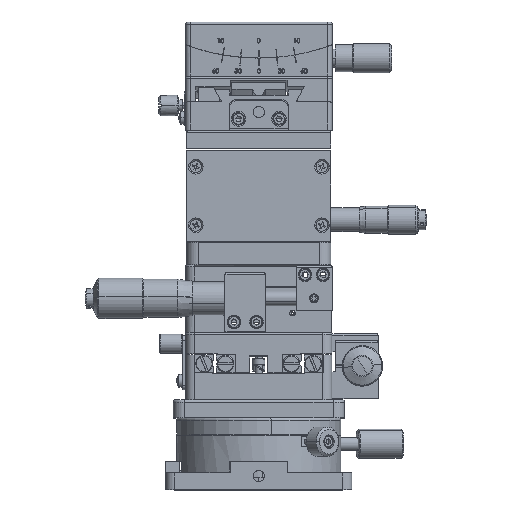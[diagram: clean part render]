
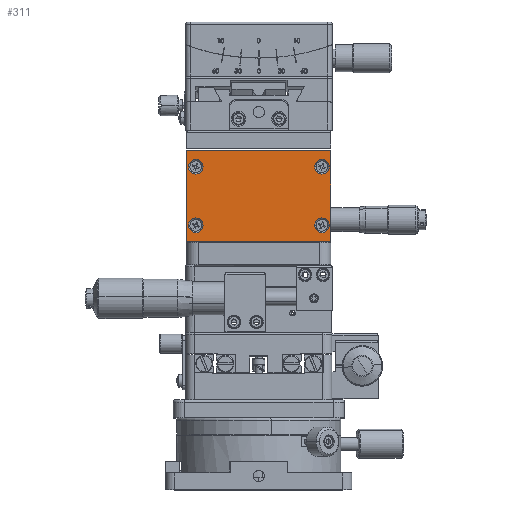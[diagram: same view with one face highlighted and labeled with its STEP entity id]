
A CAD part, top view. The second image highlights one B-rep face of the part: STEP entity #311.
In plain terms, the highlighted planar face has unit normal (0, 0, 1).
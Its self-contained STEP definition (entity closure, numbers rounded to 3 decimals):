
#294 = DIRECTION ( 'NONE',  ( 0., 0., 1. ) ) ;
#311 = ADVANCED_FACE ( 'NONE', ( #51239, #19846, #36436, #67918, #34496 ), #60188, .T. ) ;
#2856 = VECTOR ( 'NONE', #40385, 1000. ) ;
#4668 = VERTEX_POINT ( 'NONE', #16105 ) ;
#6529 = DIRECTION ( 'NONE',  ( 0., 0., -1. ) ) ;
#8771 = DIRECTION ( 'NONE',  ( 0., 0., -1. ) ) ;
#10089 = CARTESIAN_POINT ( 'NONE',  ( 28.04, 117.421, 24.96 ) ) ;
#10103 = CARTESIAN_POINT ( 'NONE',  ( -31.96, 150.421, 24.96 ) ) ;
#11015 = DIRECTION ( 'NONE',  ( 0., 0., 1. ) ) ;
#12549 = AXIS2_PLACEMENT_3D ( 'NONE', #18831, #62718, #25141 ) ;
#12737 = EDGE_LOOP ( 'NONE', ( #37847, #41661, #57982, #39986 ) ) ;
#13456 = ORIENTED_EDGE ( 'NONE', *, *, #14168, .F. ) ;
#14168 = EDGE_CURVE ( 'NONE', #25033, #79040, #41492, .T. ) ;
#14227 = VECTOR ( 'NONE', #32479, 1000. ) ;
#14324 = EDGE_CURVE ( 'NONE', #4668, #53652, #75839, .T. ) ;
#16105 = CARTESIAN_POINT ( 'NONE',  ( -24.71, 143.421, 24.96 ) ) ;
#16415 = DIRECTION ( 'NONE',  ( 1., 0., 0. ) ) ;
#16452 = EDGE_CURVE ( 'NONE', #48978, #19655, #24493, .T. ) ;
#18831 = CARTESIAN_POINT ( 'NONE',  ( 28.04, 143.421, 24.96 ) ) ;
#19655 = VERTEX_POINT ( 'NONE', #54207 ) ;
#19846 = FACE_BOUND ( 'NONE', #76403, .T. ) ;
#21518 = EDGE_CURVE ( 'NONE', #48903, #32127, #53277, .T. ) ;
#21926 = CARTESIAN_POINT ( 'NONE',  ( 32.04, 150.421, 24.96 ) ) ;
#22376 = ORIENTED_EDGE ( 'NONE', *, *, #67625, .F. ) ;
#22382 = CIRCLE ( 'NONE', #23998, 3.25 ) ;
#22524 = VECTOR ( 'NONE', #40404, 1000. ) ;
#23651 = AXIS2_PLACEMENT_3D ( 'NONE', #10089, #53960, #16415 ) ;
#23998 = AXIS2_PLACEMENT_3D ( 'NONE', #61795, #24243, #68076 ) ;
#24136 = ORIENTED_EDGE ( 'NONE', *, *, #72215, .F. ) ;
#24243 = DIRECTION ( 'NONE',  ( 0., 0., 1. ) ) ;
#24493 = LINE ( 'NONE', #65430, #22524 ) ;
#24731 = ORIENTED_EDGE ( 'NONE', *, *, #14324, .T. ) ;
#25033 = VERTEX_POINT ( 'NONE', #26767 ) ;
#25141 = DIRECTION ( 'NONE',  ( 1., 0., 0. ) ) ;
#25631 = EDGE_LOOP ( 'NONE', ( #22376, #13456 ) ) ;
#26341 = EDGE_CURVE ( 'NONE', #53652, #4668, #68196, .T. ) ;
#26447 = EDGE_CURVE ( 'NONE', #51115, #48978, #47586, .T. ) ;
#26767 = CARTESIAN_POINT ( 'NONE',  ( -24.71, 117.421, 24.96 ) ) ;
#27229 = VECTOR ( 'NONE', #72089, 1000. ) ;
#28211 = CARTESIAN_POINT ( 'NONE',  ( 32.04, 150.421, 24.96 ) ) ;
#28314 = AXIS2_PLACEMENT_3D ( 'NONE', #30184, #74073, #36427 ) ;
#30184 = CARTESIAN_POINT ( 'NONE',  ( 28.04, 117.421, 24.96 ) ) ;
#30712 = EDGE_CURVE ( 'NONE', #19655, #33427, #52860, .T. ) ;
#31925 = EDGE_CURVE ( 'NONE', #33427, #51115, #75299, .T. ) ;
#32015 = EDGE_CURVE ( 'NONE', #32127, #48903, #37927, .T. ) ;
#32127 = VERTEX_POINT ( 'NONE', #80315 ) ;
#32479 = DIRECTION ( 'NONE',  ( 0., -1., 0. ) ) ;
#33427 = VERTEX_POINT ( 'NONE', #10103 ) ;
#34496 = FACE_OUTER_BOUND ( 'NONE', #12737, .T. ) ;
#35308 = VERTEX_POINT ( 'NONE', #36076 ) ;
#35597 = DIRECTION ( 'NONE',  ( 0., 0., 1. ) ) ;
#36076 = CARTESIAN_POINT ( 'NONE',  ( 24.79, 143.421, 24.96 ) ) ;
#36427 = DIRECTION ( 'NONE',  ( 1., 0., 0. ) ) ;
#36436 = FACE_BOUND ( 'NONE', #59106, .T. ) ;
#37773 = CARTESIAN_POINT ( 'NONE',  ( -27.96, 117.421, 24.96 ) ) ;
#37847 = ORIENTED_EDGE ( 'NONE', *, *, #30712, .F. ) ;
#37927 = CIRCLE ( 'NONE', #23651, 3.25 ) ;
#38509 = CARTESIAN_POINT ( 'NONE',  ( 32.04, 110.421, 24.96 ) ) ;
#39496 = AXIS2_PLACEMENT_3D ( 'NONE', #42275, #11015, #54908 ) ;
#39986 = ORIENTED_EDGE ( 'NONE', *, *, #31925, .F. ) ;
#40385 = DIRECTION ( 'NONE',  ( 0., 1., 0. ) ) ;
#40404 = DIRECTION ( 'NONE',  ( -1., 0., 0. ) ) ;
#40526 = AXIS2_PLACEMENT_3D ( 'NONE', #46310, #8771, #52620 ) ;
#40987 = AXIS2_PLACEMENT_3D ( 'NONE', #73258, #35597, #79604 ) ;
#41092 = CARTESIAN_POINT ( 'NONE',  ( 32.04, 110.421, 24.96 ) ) ;
#41492 = CIRCLE ( 'NONE', #58970, 3.25 ) ;
#41661 = ORIENTED_EDGE ( 'NONE', *, *, #16452, .F. ) ;
#42178 = EDGE_CURVE ( 'NONE', #52068, #35308, #47304, .T. ) ;
#42275 = CARTESIAN_POINT ( 'NONE',  ( -31.96, 150.421, 24.96 ) ) ;
#44045 = CARTESIAN_POINT ( 'NONE',  ( -27.96, 143.421, 24.96 ) ) ;
#44136 = DIRECTION ( 'NONE',  ( -1., 0., 0. ) ) ;
#45390 = CARTESIAN_POINT ( 'NONE',  ( -31.96, 110.421, 24.96 ) ) ;
#46310 = CARTESIAN_POINT ( 'NONE',  ( -27.96, 143.421, 24.96 ) ) ;
#47304 = CIRCLE ( 'NONE', #12549, 3.25 ) ;
#47586 = LINE ( 'NONE', #38509, #14227 ) ;
#48903 = VERTEX_POINT ( 'NONE', #74570 ) ;
#48978 = VERTEX_POINT ( 'NONE', #41092 ) ;
#50356 = DIRECTION ( 'NONE',  ( -1., 0., 0. ) ) ;
#51115 = VERTEX_POINT ( 'NONE', #21926 ) ;
#51239 = FACE_BOUND ( 'NONE', #25631, .T. ) ;
#52068 = VERTEX_POINT ( 'NONE', #73646 ) ;
#52203 = CIRCLE ( 'NONE', #40987, 3.25 ) ;
#52620 = DIRECTION ( 'NONE',  ( -1., 0., 0. ) ) ;
#52860 = LINE ( 'NONE', #45390, #2856 ) ;
#53277 = CIRCLE ( 'NONE', #28314, 3.25 ) ;
#53652 = VERTEX_POINT ( 'NONE', #74282 ) ;
#53960 = DIRECTION ( 'NONE',  ( 0., 0., -1. ) ) ;
#54207 = CARTESIAN_POINT ( 'NONE',  ( -31.96, 110.421, 24.96 ) ) ;
#54908 = DIRECTION ( 'NONE',  ( 1., 0., 0. ) ) ;
#57982 = ORIENTED_EDGE ( 'NONE', *, *, #26447, .F. ) ;
#58970 = AXIS2_PLACEMENT_3D ( 'NONE', #37773, #294, #44136 ) ;
#59106 = EDGE_LOOP ( 'NONE', ( #77437, #71960 ) ) ;
#60188 = PLANE ( 'NONE',  #39496 ) ;
#60890 = CARTESIAN_POINT ( 'NONE',  ( -31.21, 117.421, 24.96 ) ) ;
#61795 = CARTESIAN_POINT ( 'NONE',  ( -27.96, 117.421, 24.96 ) ) ;
#61853 = EDGE_LOOP ( 'NONE', ( #78611, #24136 ) ) ;
#62718 = DIRECTION ( 'NONE',  ( 0., 0., 1. ) ) ;
#65430 = CARTESIAN_POINT ( 'NONE',  ( 32.04, 110.421, 24.96 ) ) ;
#67625 = EDGE_CURVE ( 'NONE', #79040, #25033, #22382, .T. ) ;
#67918 = FACE_BOUND ( 'NONE', #61853, .T. ) ;
#68076 = DIRECTION ( 'NONE',  ( -1., 0., 0. ) ) ;
#68196 = CIRCLE ( 'NONE', #74757, 3.25 ) ;
#71960 = ORIENTED_EDGE ( 'NONE', *, *, #21518, .T. ) ;
#72089 = DIRECTION ( 'NONE',  ( 1., 0., 0. ) ) ;
#72215 = EDGE_CURVE ( 'NONE', #35308, #52068, #52203, .T. ) ;
#73258 = CARTESIAN_POINT ( 'NONE',  ( 28.04, 143.421, 24.96 ) ) ;
#73646 = CARTESIAN_POINT ( 'NONE',  ( 31.29, 143.421, 24.96 ) ) ;
#74073 = DIRECTION ( 'NONE',  ( 0., 0., -1. ) ) ;
#74282 = CARTESIAN_POINT ( 'NONE',  ( -31.21, 143.421, 24.96 ) ) ;
#74570 = CARTESIAN_POINT ( 'NONE',  ( 24.79, 117.421, 24.96 ) ) ;
#74757 = AXIS2_PLACEMENT_3D ( 'NONE', #44045, #6529, #50356 ) ;
#75299 = LINE ( 'NONE', #28211, #27229 ) ;
#75839 = CIRCLE ( 'NONE', #40526, 3.25 ) ;
#76403 = EDGE_LOOP ( 'NONE', ( #77359, #24731 ) ) ;
#77359 = ORIENTED_EDGE ( 'NONE', *, *, #26341, .T. ) ;
#77437 = ORIENTED_EDGE ( 'NONE', *, *, #32015, .T. ) ;
#78611 = ORIENTED_EDGE ( 'NONE', *, *, #42178, .F. ) ;
#79040 = VERTEX_POINT ( 'NONE', #60890 ) ;
#79604 = DIRECTION ( 'NONE',  ( 1., 0., 0. ) ) ;
#80315 = CARTESIAN_POINT ( 'NONE',  ( 31.29, 117.421, 24.96 ) ) ;
